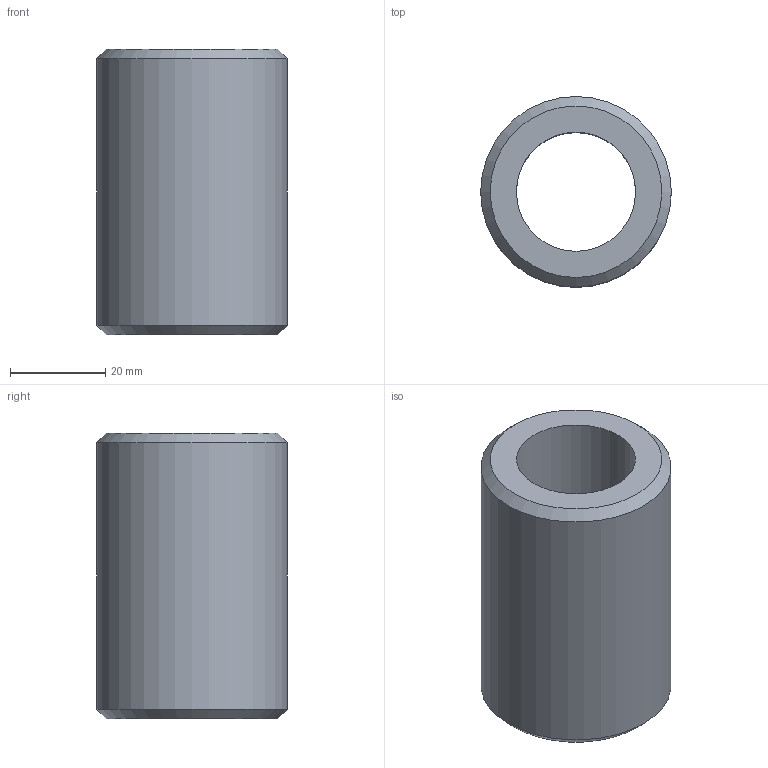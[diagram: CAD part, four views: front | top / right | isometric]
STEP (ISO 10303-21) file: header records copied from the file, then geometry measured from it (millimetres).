
FILE_DESCRIPTION(/* description */ (''),/* implementation_level */ '2;1');
FILE_NAME(/* name */ 'Guidebush',/* time_stamp */ '2005-04-11T10:19:13+06:00',/* author */ (''),/* organization */ (''),/* preprocessor_version */ 'ST-DEVELOPER v9',/* originating_system */ 'UGS - NX 3.0',/* authorisation */ '');
FILE_SCHEMA (('CONFIG_CONTROL_DESIGN'));
Length unit declared in the file: millimetre
Products named in the file (1): CADC04D5rgrx
Bounding box: 40 x 40 x 60 mm (x, y, z)
Volume: 45459.9 mm3; surface area: 13478.9 mm2
Topology: 1 solids, 1 shells, 6 faces, 10 edges, 6 vertices
Faces by surface type: cylinder 2, plane 2, cone 2
Full cylindrical faces by diameter (mm): 25 x1, 40 x1
Entity records: 214 total; most frequent: DIRECTION 26, CARTESIAN_POINT 19, AXIS2_PLACEMENT_3D 13, EDGE_LOOP 12, ORIENTED_EDGE 12, FACE_BOUND 8, PERSON_AND_ORGANIZATION 7, ORGANIZATION 7
